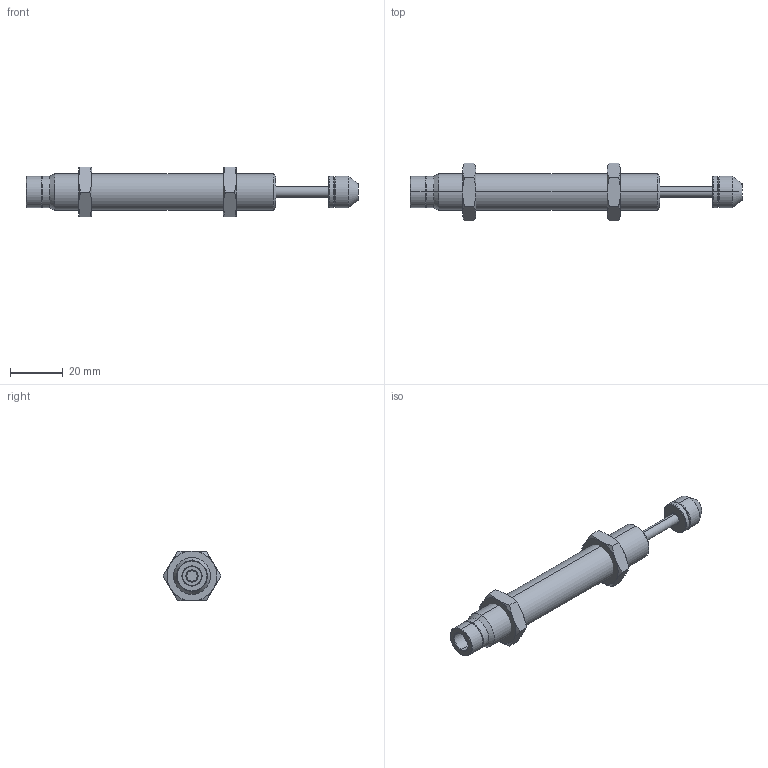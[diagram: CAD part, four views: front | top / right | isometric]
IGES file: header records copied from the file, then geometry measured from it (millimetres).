
Start section: SolidWorks IGES file using analytic representation for surfaces
Global section: file name: D:\PRT跡宒\AC\AC1420.IGS,1; native system: 5HSolidWorks 2013; preprocessor: SolidWorks 2013; author: Administrator; date: 160406.151843; units: inch
Bounding box: 126.2 x 21.94 x 19 mm (x, y, z)
Surface area: 7465.3 mm2 (no closed solid volume)
Topology: 0 solids, 0 shells, 99 faces, 1488 edges, 1488 vertices
Faces by surface type: revolution 74, bspline 25
